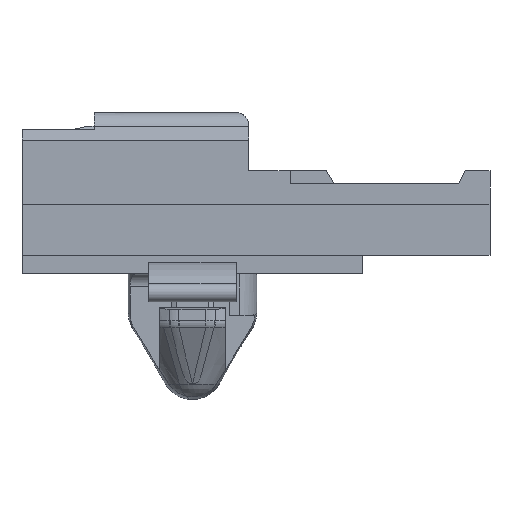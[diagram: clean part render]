
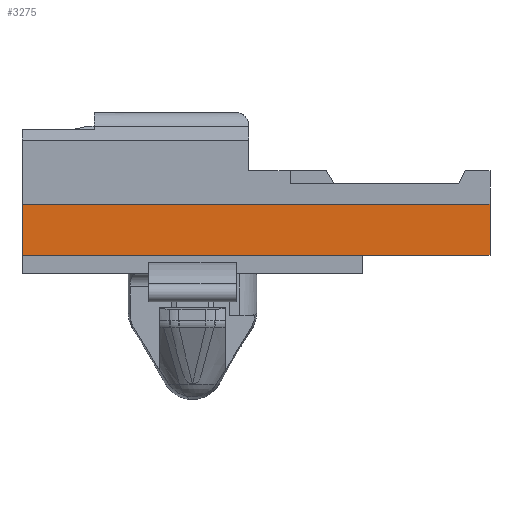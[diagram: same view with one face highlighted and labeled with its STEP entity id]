
A CAD part, front view. The second image highlights one B-rep face of the part: STEP entity #3275.
In plain terms, the highlighted planar face has unit normal (0, -1, 0).
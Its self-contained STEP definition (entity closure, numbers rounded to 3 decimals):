
#3255=AXIS2_PLACEMENT_3D('Plane Axis2P3D',#3252,#3253,#3254) ;
#199=CARTESIAN_POINT('Vertex',(19.9,-4.95,0.4)) ;
#202=CARTESIAN_POINT('Line Origine',(19.9,-4.95,-1.55)) ;
#206=CARTESIAN_POINT('Vertex',(19.9,-4.95,-3.5)) ;
#3162=CARTESIAN_POINT('Line Origine',(2.05,-4.95,0.4)) ;
#3166=CARTESIAN_POINT('Vertex',(-15.8,-4.95,0.4)) ;
#3252=CARTESIAN_POINT('Axis2P3D Location',(0.,-4.95,-3.5)) ;
#3257=CARTESIAN_POINT('Line Origine',(-15.8,-4.95,-1.55)) ;
#3261=CARTESIAN_POINT('Vertex',(-15.8,-4.95,-3.5)) ;
#3264=CARTESIAN_POINT('Line Origine',(2.05,-4.95,-3.5)) ;
#203=DIRECTION('Vector Direction',(0.,0.,1.)) ;
#3163=DIRECTION('Vector Direction',(-1.,0.,0.)) ;
#3253=DIRECTION('Axis2P3D Direction',(0.,-1.,0.)) ;
#3254=DIRECTION('Axis2P3D XDirection',(0.,0.,1.)) ;
#3258=DIRECTION('Vector Direction',(0.,0.,1.)) ;
#3265=DIRECTION('Vector Direction',(-1.,0.,0.)) ;
#204=VECTOR('Line Direction',#203,1.) ;
#3164=VECTOR('Line Direction',#3163,1.) ;
#3259=VECTOR('Line Direction',#3258,1.) ;
#3266=VECTOR('Line Direction',#3265,1.) ;
#3270=ORIENTED_EDGE('',*,*,#208,.T.) ;
#3271=ORIENTED_EDGE('',*,*,#3168,.T.) ;
#3272=ORIENTED_EDGE('',*,*,#3263,.F.) ;
#3273=ORIENTED_EDGE('',*,*,#3268,.F.) ;
#3275=ADVANCED_FACE('BODY \X2\306E7D50679C\X0\',(#3274),#3256,.T.) ;
#208=EDGE_CURVE('',#207,#200,#205,.T.) ;
#3168=EDGE_CURVE('',#200,#3167,#3165,.T.) ;
#3263=EDGE_CURVE('',#3262,#3167,#3260,.T.) ;
#3268=EDGE_CURVE('',#207,#3262,#3267,.T.) ;
#3269=EDGE_LOOP('',(#3270,#3271,#3272,#3273)) ;
#3274=FACE_OUTER_BOUND('',#3269,.T.) ;
#205=LINE('Line',#202,#204) ;
#3165=LINE('Line',#3162,#3164) ;
#3260=LINE('Line',#3257,#3259) ;
#3267=LINE('Line',#3264,#3266) ;
#3256=PLANE('',#3255) ;
#200=VERTEX_POINT('',#199) ;
#207=VERTEX_POINT('',#206) ;
#3167=VERTEX_POINT('',#3166) ;
#3262=VERTEX_POINT('',#3261) ;
